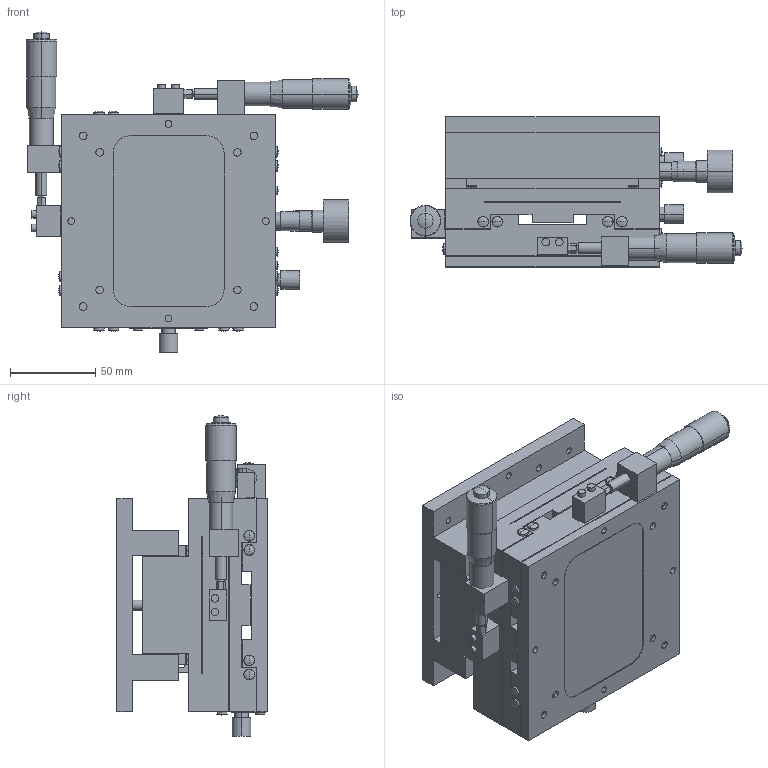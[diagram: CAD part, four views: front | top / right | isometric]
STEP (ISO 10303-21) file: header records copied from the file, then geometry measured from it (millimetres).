
FILE_DESCRIPTION (( 'STEP AP203' ), '1' );
FILE_NAME ('LT-140-S1.STEP', '2013-11-12T11:09:02', ( '' ), ( '' ), 'SwSTEP 2.0', 'SolidWorks 2011', '' );
FILE_SCHEMA (( 'CONFIG_CONTROL_DESIGN' ));
Length unit declared in the file: millimetre
Products named in the file (7): LT-140-S1; LT-140-S1-6; LT-140-S1-5; LT-140-S1-4; LT-140-S1-3; LT-140-S1-2; LT-140-S1-1
Assembly tree (6 placements, depth 2):
  LT-140-S1
    LT-140-S1-2
    LT-140-S1-4
    LT-140-S1-1
    LT-140-S1-3
    LT-140-S1-6
    LT-140-S1-5
Bounding box: 194.5 x 88 x 187.8 mm (x, y, z)
Volume: 1075897.9 mm3; surface area: 270625.8 mm2
Topology: 8 solids, 13 shells, 854 faces, 2074 edges, 1344 vertices
Faces by surface type: plane 351, cylinder 333, cone 96, sphere 64, bspline 6, torus 4
Entity records: 27419 total; most frequent: CARTESIAN_POINT 5531, DIRECTION 4710, ORIENTED_EDGE 4140, EDGE_CURVE 2070, AXIS2_PLACEMENT_3D 1803, VERTEX_POINT 1344, LINE 1104, VECTOR 1104
